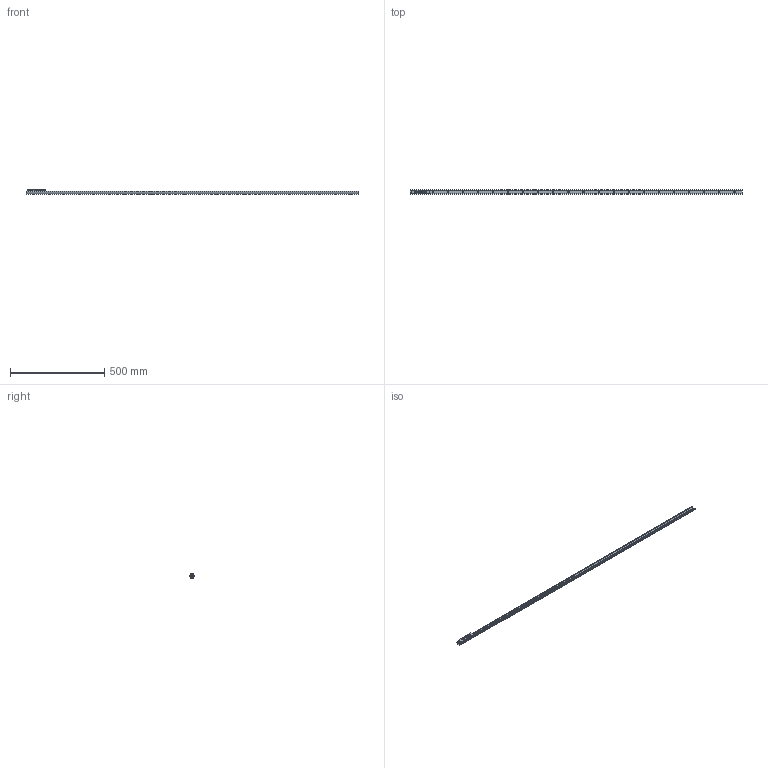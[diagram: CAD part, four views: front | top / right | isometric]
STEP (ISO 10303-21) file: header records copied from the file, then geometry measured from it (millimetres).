
FILE_DESCRIPTION( ( 'STEP AP214' ), '1' );
FILE_NAME( 'p:/temp/worker_21/temp/exporttempdir_4652_287_F8Rsa/format_1/TEN26-1760-CEN26-92.stp', '2020-05-08T18:51:32', ( 'License CC BY-ND 4.0' ), ( 'CADENAS' ), ' ', 'PARTsolutions', ' ' );
FILE_SCHEMA( ( 'AUTOMOTIVE_DESIGN { 1 0 10303 214 1 1 1 1 }' ) );
Length unit declared in the file: millimetre
Products named in the file (6): TEN26-1760-CEN26-92; _TEN 26-1760; _CEN26-92_1; _RLN26(11.2_M5); _RLA26(11.2_M5); _LAN-26
Assembly tree (8 placements, depth 2):
  TEN26-1760-CEN26-92
    _TEN 26-1760
    _CEN26-92_1
    _RLN26(11.2_M5)  x2
    _RLA26(11.2_M5)
    _LAN-26  x3
Bounding box: 1760 x 26 x 22 mm (x, y, z)
Volume: 195192.4 mm3; surface area: 164733.8 mm2
Topology: 8 solids, 8 shells, 255 faces, 567 edges, 355 vertices
Faces by surface type: plane 131, cylinder 91, cone 24, bspline 9
Full cylindrical faces by diameter (mm): 2.5 x2, 4.134 x5, 4.5 x3, 5 x6, 6.5 x22, 9.3 x3, 11.2 x6, 11.6 x6, 15.7 x6, 16.7 x6
Entity records: 6182 total; most frequent: CARTESIAN_POINT 895, DIRECTION 844, ORIENTED_EDGE 622, AXIS2_PLACEMENT_3D 358, EDGE_LOOP 320, EDGE_CURVE 311, VERTEX_POINT 241, FACE_OUTER_BOUND 228
